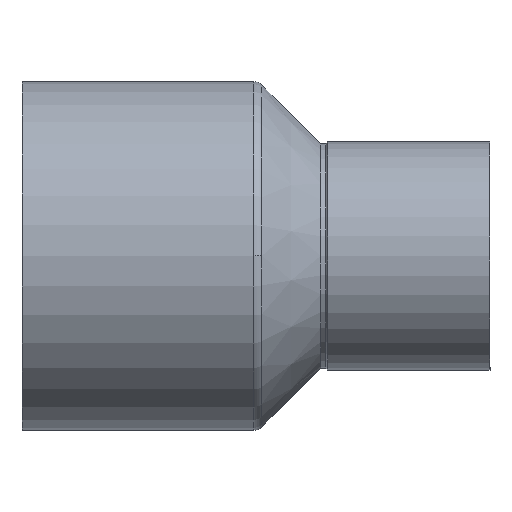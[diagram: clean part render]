
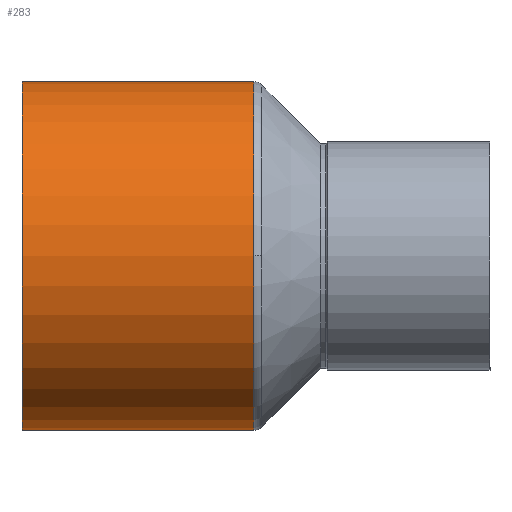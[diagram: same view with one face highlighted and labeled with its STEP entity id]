
A CAD part, top view. The second image highlights one B-rep face of the part: STEP entity #283.
In plain terms, the highlighted cylindrical face has radius 18.825 mm (diameter 37.65 mm), a partial arc.
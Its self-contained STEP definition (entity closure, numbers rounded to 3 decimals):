
#207=CARTESIAN_POINT('',(25.0,18.825,0.0));
#208=VERTEX_POINT('',#207);
#216=CARTESIAN_POINT('',(25.0,0.,18.825));
#217=VERTEX_POINT('',#216);
#218=CARTESIAN_POINT('',(25.0,0.0,0.0));
#219=DIRECTION('',(1.0,0.0,0.0));
#220=DIRECTION('',(0.0,1.0,0.0));
#221=AXIS2_PLACEMENT_3D('',#218,#219,#220);
#222=CIRCLE('',#221,18.825);
#223=EDGE_CURVE('',#208,#217,#222,.T.);
#243=CARTESIAN_POINT('',(12.5,0.0,0.0));
#244=DIRECTION('',(1.0,0.0,0.0));
#245=DIRECTION('',(0.0,1.0,0.0));
#246=AXIS2_PLACEMENT_3D('',#243,#244,#245);
#247=CYLINDRICAL_SURFACE('',#246,18.825);
#248=CARTESIAN_POINT('',(0.0,18.825,0.0));
#249=VERTEX_POINT('',#248);
#250=CARTESIAN_POINT('',(0.0,18.825,0.0));
#251=DIRECTION('',(1.0,0.0,0.0));
#252=VECTOR('',#251,25.0);
#253=LINE('',#250,#252);
#254=EDGE_CURVE('',#249,#208,#253,.T.);
#255=ORIENTED_EDGE('',*,*,#254,.F.);
#256=CARTESIAN_POINT('',(0.0,-18.825,0.));
#257=VERTEX_POINT('',#256);
#258=CARTESIAN_POINT('',(0.0,0.0,0.0));
#259=DIRECTION('',(1.0,0.0,0.0));
#260=DIRECTION('',(0.0,1.0,0.0));
#261=AXIS2_PLACEMENT_3D('',#258,#259,#260);
#262=CIRCLE('',#261,18.825);
#263=EDGE_CURVE('',#249,#257,#262,.T.);
#264=ORIENTED_EDGE('',*,*,#263,.T.);
#265=CARTESIAN_POINT('',(25.0,-18.825,0.));
#266=VERTEX_POINT('',#265);
#267=CARTESIAN_POINT('',(25.0,-18.825,0.));
#268=DIRECTION('',(-1.0,0.0,0.0));
#269=VECTOR('',#268,25.0);
#270=LINE('',#267,#269);
#271=EDGE_CURVE('',#266,#257,#270,.T.);
#272=ORIENTED_EDGE('',*,*,#271,.F.);
#273=CARTESIAN_POINT('',(25.0,0.0,0.0));
#274=DIRECTION('',(1.0,0.0,0.0));
#275=DIRECTION('',(0.0,1.0,0.0));
#276=AXIS2_PLACEMENT_3D('',#273,#274,#275);
#277=CIRCLE('',#276,18.825);
#278=EDGE_CURVE('',#217,#266,#277,.T.);
#279=ORIENTED_EDGE('',*,*,#278,.F.);
#280=ORIENTED_EDGE('',*,*,#223,.F.);
#281=EDGE_LOOP('',(#255,#264,#272,#279,#280));
#282=FACE_OUTER_BOUND('',#281,.T.);
#283=ADVANCED_FACE('',(#282),#247,.T.);
